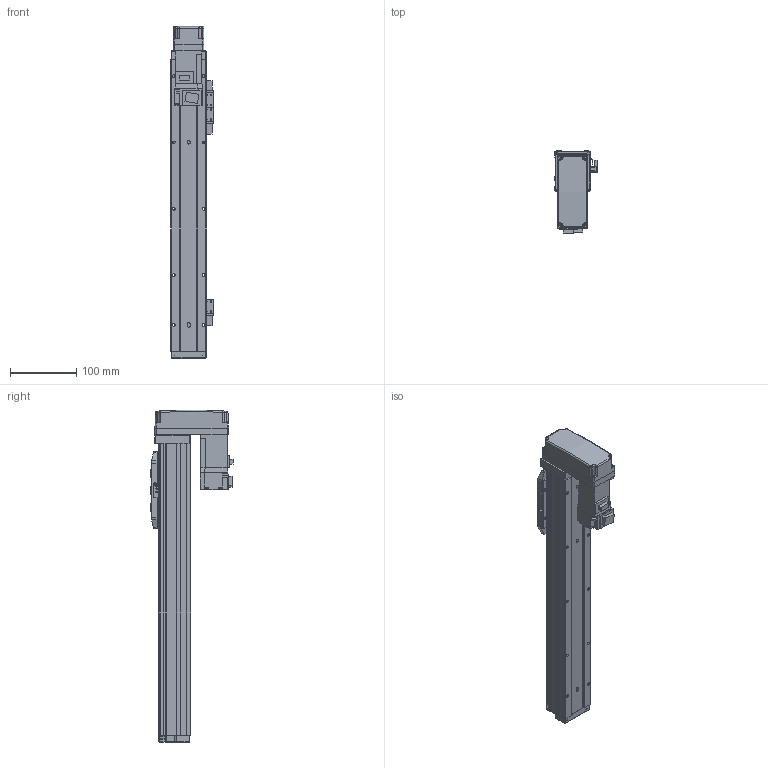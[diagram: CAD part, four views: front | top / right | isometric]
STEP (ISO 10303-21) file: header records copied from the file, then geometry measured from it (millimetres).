
FILE_DESCRIPTION (( 'STEP AP214' ), '1' );
FILE_NAME ('N_GRH5-300-BM-M10.step', '2025-03-14T10:50:45', ( '' ), ( '' ), 'SwSTEP 2.0', 'SolidWorks 2016', '' );
FILE_SCHEMA (( 'AUTOMOTIVE_DESIGN' ));
Length unit declared in the file: millimetre
Products named in the file (5): N_GRH5-BL-008^N_GRH5-300-BM-M10; N_GRH5-GY-004^N_GRH5-300-BM-M10; N_GRH5-300-BM-M10; N_GRH5-GY-011^N_GRH5-300-BM-M10; HF-KP13_100W_Motor^N_GRH5-300-BM-M10
Assembly tree (4 placements, depth 2):
  N_GRH5-300-BM-M10
    N_GRH5-GY-011^N_GRH5-300-BM-M10
    N_GRH5-GY-004^N_GRH5-300-BM-M10
    HF-KP13_100W_Motor^N_GRH5-300-BM-M10
    N_GRH5-BL-008^N_GRH5-300-BM-M10
Bounding box: 64.05 x 123.7 x 500.5 mm (x, y, z)
Volume: 1111873.2 mm3; surface area: 268580.4 mm2
Topology: 4 solids, 5 shells, 934 faces, 2384 edges, 1509 vertices
Faces by surface type: plane 547, cylinder 312, cone 50, bspline 15, sphere 10
Entity records: 35587 total; most frequent: CARTESIAN_POINT 5593, DIRECTION 4805, ORIENTED_EDGE 4704, EDGE_CURVE 2352, VECTOR 1635, LINE 1635, AXIS2_PLACEMENT_3D 1585, VERTEX_POINT 1507
